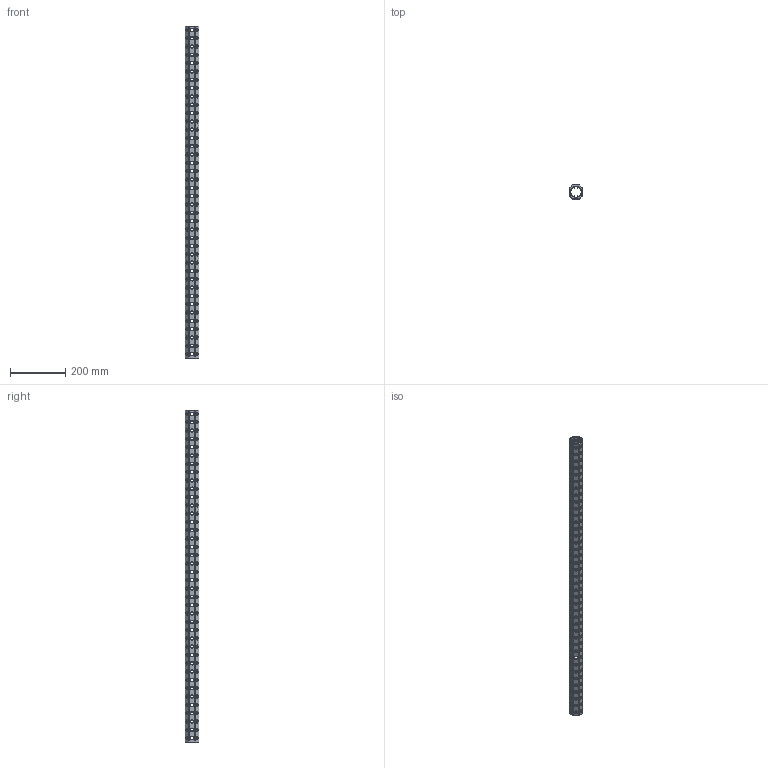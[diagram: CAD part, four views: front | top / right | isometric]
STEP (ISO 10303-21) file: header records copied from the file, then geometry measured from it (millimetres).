
FILE_DESCRIPTION(('CATIA V5 STEP Exchange'),'2;1');
FILE_NAME('U:\Room\唐宝山\EGT002\46-01-010269-01-EGT002-1198.stp','2021-08-24T01:18:11+00:00',('none'),('none'),'CATIA Version 5 Release 21 GA (IN-10)','CATIA V5 STEP AP203','none');
FILE_SCHEMA(('CONFIG_CONTROL_DESIGN'));
Products named in the file (1): 46-01-010269-01-EGT002-1198
Bounding box: 50 x 50 x 1198 mm (x, y, z)
Volume: 853461.1 mm3; surface area: 412187.5 mm2
Topology: 1 solids, 1 shells, 1684 faces, 4646 edges, 2884 vertices
Faces by surface type: cone 960, cylinder 698, plane 26
Entity records: 68287 total; most frequent: CARTESIAN_POINT 27394, ORIENTED_EDGE 9292, DIRECTION 6600, EDGE_CURVE 4646, AXIS2_PLACEMENT_3D 3107, VERTEX_POINT 2884, EDGE_LOOP 2246, VECTOR 1810
